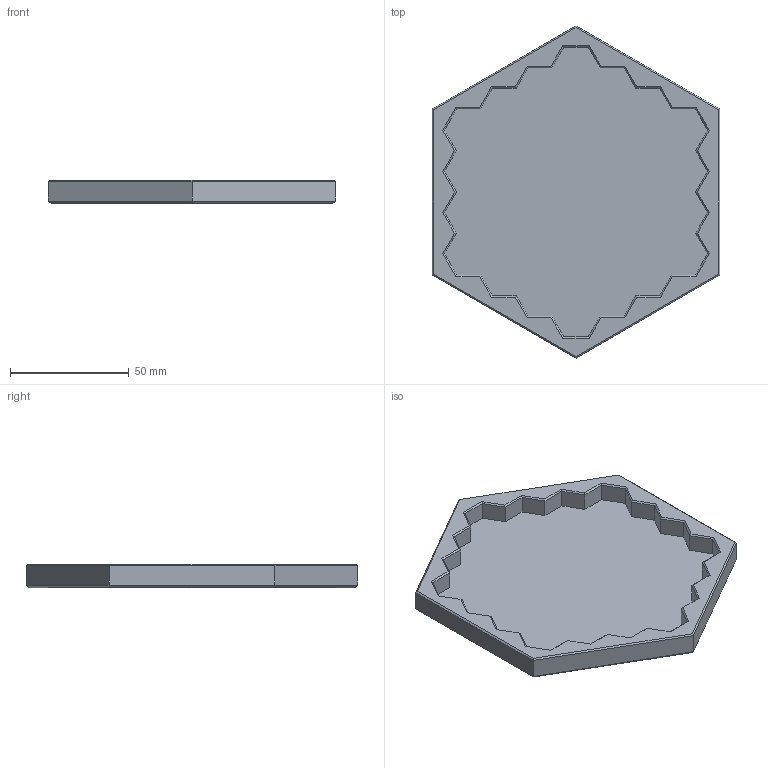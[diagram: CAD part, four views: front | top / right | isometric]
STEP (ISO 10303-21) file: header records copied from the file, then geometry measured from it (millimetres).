
FILE_DESCRIPTION(/* description */ (''),/* implementation_level */ '2;1');
FILE_NAME(/* name */ 'hnefatafl_case_top',/* time_stamp */ '2024-08-03T13:45:09+02:00',/* author */ (''),/* organization */ (''),/* preprocessor_version */ 'ST-DEVELOPER v19.2',/* originating_system */ 'Rhino 8.11',/* authorisation */ '');
FILE_SCHEMA (('CONFIG_CONTROL_DESIGN'));
Length unit declared in the file: millimetre
Products named in the file (1): Document
Bounding box: 121.24 x 140 x 10.1 mm (x, y, z)
Volume: 48401.7 mm3; surface area: 32759.7 mm2
Topology: 1 solids, 1 shells, 208 faces, 528 edges, 334 vertices
Faces by surface type: plane 208
Entity records: 6134 total; most frequent: CARTESIAN_POINT 2324, ORIENTED_EDGE 1056, EDGE_CURVE 528, B_SPLINE_CURVE_WITH_KNOTS 528, VERTEX_POINT 334, EDGE_LOOP 220, DIRECTION 212, AXIS2_PLACEMENT_3D 210
